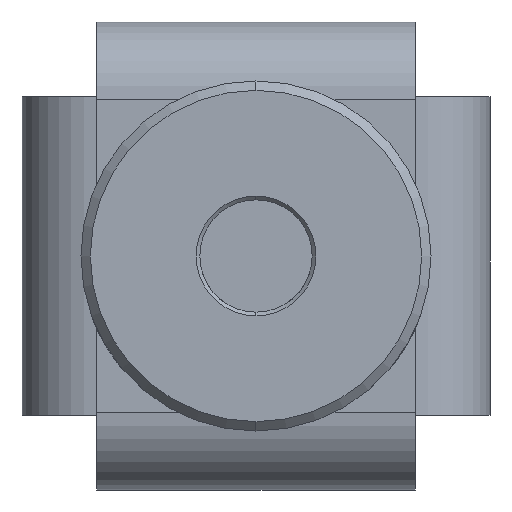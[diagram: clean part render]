
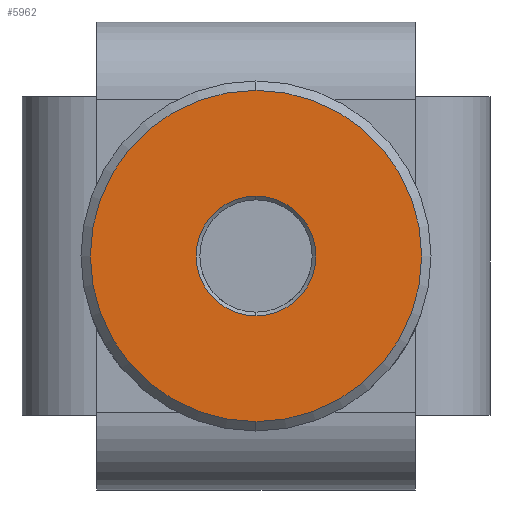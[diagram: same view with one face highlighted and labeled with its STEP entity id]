
A CAD part, front view. The second image highlights one B-rep face of the part: STEP entity #5962.
In plain terms, the highlighted planar face has unit normal (0, -1, 0).
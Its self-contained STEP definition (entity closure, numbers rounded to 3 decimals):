
#185 = AXIS2_PLACEMENT_3D ( 'NONE', #1507, #2107, #1533 ) ;
#194 = EDGE_LOOP ( 'NONE', ( #4986, #2388 ) ) ;
#234 = DIRECTION ( 'NONE',  ( 0., 0., 1. ) ) ;
#259 = PLANE ( 'NONE',  #5951 ) ;
#287 = CIRCLE ( 'NONE', #185, 8.85 ) ;
#1158 = AXIS2_PLACEMENT_3D ( 'NONE', #4495, #6373, #5677 ) ;
#1288 = DIRECTION ( 'NONE',  ( 0., 0., -1. ) ) ;
#1507 = CARTESIAN_POINT ( 'NONE',  ( 0., -13.55, 0. ) ) ;
#1533 = DIRECTION ( 'NONE',  ( 0., 0., 1. ) ) ;
#1793 = EDGE_CURVE ( 'NONE', #3530, #3084, #287, .T. ) ;
#1980 = EDGE_CURVE ( 'NONE', #2922, #8182, #5765, .T. ) ;
#2107 = DIRECTION ( 'NONE',  ( 0., 1., 0. ) ) ;
#2388 = ORIENTED_EDGE ( 'NONE', *, *, #6743, .F. ) ;
#2442 = CARTESIAN_POINT ( 'NONE',  ( 0., -13.55, 0. ) ) ;
#2922 = VERTEX_POINT ( 'NONE', #4664 ) ;
#3084 = VERTEX_POINT ( 'NONE', #3552 ) ;
#3462 = FACE_OUTER_BOUND ( 'NONE', #7730, .T. ) ;
#3530 = VERTEX_POINT ( 'NONE', #6687 ) ;
#3552 = CARTESIAN_POINT ( 'NONE',  ( 0., -13.55, -8.85 ) ) ;
#3965 = AXIS2_PLACEMENT_3D ( 'NONE', #2442, #5729, #1288 ) ;
#4009 = AXIS2_PLACEMENT_3D ( 'NONE', #4921, #6198, #5750 ) ;
#4495 = CARTESIAN_POINT ( 'NONE',  ( 0., -13.55, 0. ) ) ;
#4664 = CARTESIAN_POINT ( 'NONE',  ( 0., -13.55, -3.2 ) ) ;
#4921 = CARTESIAN_POINT ( 'NONE',  ( 0., -13.55, 0. ) ) ;
#4971 = CARTESIAN_POINT ( 'NONE',  ( 0., -13.55, 3.2 ) ) ;
#4986 = ORIENTED_EDGE ( 'NONE', *, *, #1980, .F. ) ;
#5677 = DIRECTION ( 'NONE',  ( 0., 0., 1. ) ) ;
#5729 = DIRECTION ( 'NONE',  ( 0., -1., 0. ) ) ;
#5750 = DIRECTION ( 'NONE',  ( 0., 0., -1. ) ) ;
#5765 = CIRCLE ( 'NONE', #4009, 3.2 ) ;
#5890 = ORIENTED_EDGE ( 'NONE', *, *, #1793, .F. ) ;
#5951 = AXIS2_PLACEMENT_3D ( 'NONE', #7304, #6049, #234 ) ;
#5962 = ADVANCED_FACE ( 'NONE', ( #5973, #3462 ), #259, .F. ) ;
#5973 = FACE_BOUND ( 'NONE', #194, .T. ) ;
#6049 = DIRECTION ( 'NONE',  ( 0., 1., 0. ) ) ;
#6198 = DIRECTION ( 'NONE',  ( 0., -1., 0. ) ) ;
#6373 = DIRECTION ( 'NONE',  ( 0., 1., 0. ) ) ;
#6393 = ORIENTED_EDGE ( 'NONE', *, *, #7641, .F. ) ;
#6687 = CARTESIAN_POINT ( 'NONE',  ( 0., -13.55, 8.85 ) ) ;
#6743 = EDGE_CURVE ( 'NONE', #8182, #2922, #7327, .T. ) ;
#6981 = CIRCLE ( 'NONE', #1158, 8.85 ) ;
#7304 = CARTESIAN_POINT ( 'NONE',  ( 0., -13.55, 0. ) ) ;
#7327 = CIRCLE ( 'NONE', #3965, 3.2 ) ;
#7641 = EDGE_CURVE ( 'NONE', #3084, #3530, #6981, .T. ) ;
#7730 = EDGE_LOOP ( 'NONE', ( #5890, #6393 ) ) ;
#8182 = VERTEX_POINT ( 'NONE', #4971 ) ;
